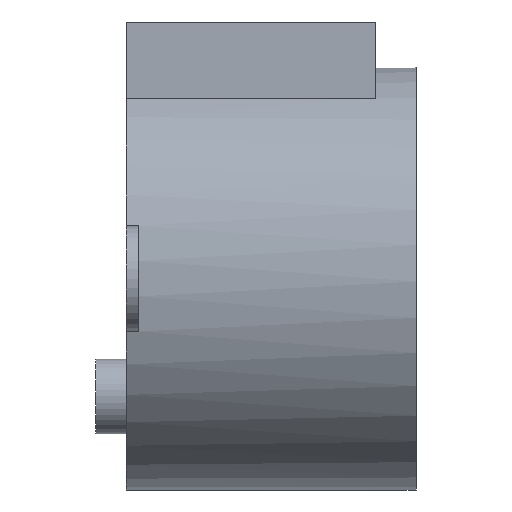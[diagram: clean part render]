
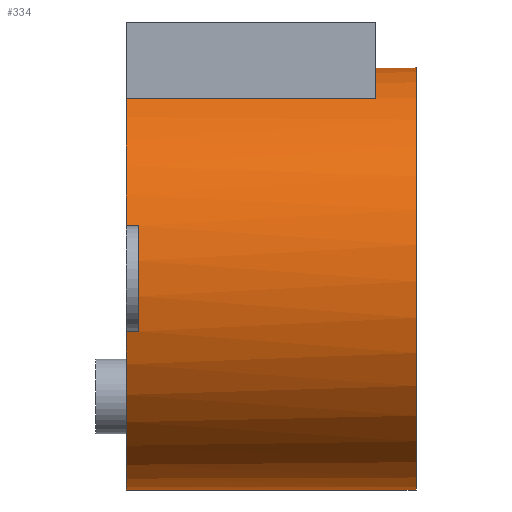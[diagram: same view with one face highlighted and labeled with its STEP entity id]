
A CAD part, front view. The second image highlights one B-rep face of the part: STEP entity #334.
In plain terms, the highlighted cylindrical face has radius 14 mm (diameter 28 mm), a full revolution.
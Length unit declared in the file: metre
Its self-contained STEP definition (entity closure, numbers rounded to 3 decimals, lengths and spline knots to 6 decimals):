
#16=LINE('',#504,#42);
#21=LINE('',#513,#47);
#25=LINE('',#532,#51);
#29=LINE('',#541,#55);
#33=LINE('',#560,#59);
#37=LINE('',#569,#63);
#42=VECTOR('',#404,1.);
#47=VECTOR('',#413,1.);
#51=VECTOR('',#431,1.);
#55=VECTOR('',#441,1.);
#59=VECTOR('',#459,1.);
#63=VECTOR('',#469,1.);
#69=CYLINDRICAL_SURFACE('',#383,0.014);
#143=ORIENTED_EDGE('',*,*,#168,.F.);
#144=ORIENTED_EDGE('',*,*,#161,.T.);
#145=ORIENTED_EDGE('',*,*,#163,.T.);
#146=ORIENTED_EDGE('',*,*,#197,.T.);
#147=ORIENTED_EDGE('',*,*,#194,.F.);
#148=ORIENTED_EDGE('',*,*,#186,.T.);
#149=ORIENTED_EDGE('',*,*,#189,.T.);
#150=ORIENTED_EDGE('',*,*,#196,.T.);
#151=ORIENTED_EDGE('',*,*,#181,.F.);
#152=ORIENTED_EDGE('',*,*,#170,.T.);
#153=ORIENTED_EDGE('',*,*,#176,.T.);
#154=ORIENTED_EDGE('',*,*,#195,.T.);
#155=ORIENTED_EDGE('',*,*,#198,.F.);
#161=EDGE_CURVE('',#202,#204,#232,.T.);
#163=EDGE_CURVE('',#204,#206,#16,.T.);
#168=EDGE_CURVE('',#202,#208,#21,.T.);
#170=EDGE_CURVE('',#210,#211,#234,.T.);
#176=EDGE_CURVE('',#211,#216,#25,.T.);
#181=EDGE_CURVE('',#210,#218,#29,.T.);
#186=EDGE_CURVE('',#221,#223,#240,.T.);
#189=EDGE_CURVE('',#223,#226,#33,.T.);
#194=EDGE_CURVE('',#221,#228,#37,.T.);
#195=EDGE_CURVE('',#216,#208,#243,.T.);
#196=EDGE_CURVE('',#226,#218,#244,.T.);
#197=EDGE_CURVE('',#206,#228,#245,.T.);
#198=EDGE_CURVE('',#229,#229,#246,.T.);
#202=VERTEX_POINT('',#494);
#204=VERTEX_POINT('',#498);
#206=VERTEX_POINT('',#503);
#208=VERTEX_POINT('',#512);
#210=VERTEX_POINT('',#518);
#211=VERTEX_POINT('',#519);
#216=VERTEX_POINT('',#531);
#218=VERTEX_POINT('',#540);
#221=VERTEX_POINT('',#547);
#223=VERTEX_POINT('',#551);
#226=VERTEX_POINT('',#559);
#228=VERTEX_POINT('',#568);
#229=VERTEX_POINT('',#576);
#232=CIRCLE('',#353,0.014);
#234=CIRCLE('',#359,0.014);
#240=CIRCLE('',#370,0.014);
#243=CIRCLE('',#378,0.014);
#244=CIRCLE('',#379,0.014);
#245=CIRCLE('',#380,0.014);
#246=CIRCLE('',#382,0.014);
#273=EDGE_LOOP('',(#143,#144,#145,#146,#147,#148,#149,#150,#151,#152,#153,
#154));
#274=EDGE_LOOP('',(#155));
#301=FACE_BOUND('',#273,.T.);
#302=FACE_BOUND('',#274,.T.);
#334=ADVANCED_FACE('',(#301,#302),#69,.T.);
#353=AXIS2_PLACEMENT_3D('',#499,#399,#400);
#359=AXIS2_PLACEMENT_3D('',#517,#418,#419);
#370=AXIS2_PLACEMENT_3D('',#552,#450,#451);
#378=AXIS2_PLACEMENT_3D('',#571,#472,#473);
#379=AXIS2_PLACEMENT_3D('',#572,#474,#475);
#380=AXIS2_PLACEMENT_3D('',#573,#476,#477);
#382=AXIS2_PLACEMENT_3D('',#575,#480,#481);
#383=AXIS2_PLACEMENT_3D('',#577,#482,#483);
#399=DIRECTION('',(1.,0.,0.));
#400=DIRECTION('',(0.,0.,-1.));
#404=DIRECTION('',(-1.,0.,0.));
#413=DIRECTION('',(-1.,0.,0.));
#418=DIRECTION('',(1.,0.,0.));
#419=DIRECTION('',(0.,0.,-1.));
#431=DIRECTION('',(-1.,0.,0.));
#441=DIRECTION('',(-1.,0.,0.));
#450=DIRECTION('',(1.,0.,0.));
#451=DIRECTION('',(0.,0.,-1.));
#459=DIRECTION('',(-1.,0.,0.));
#469=DIRECTION('',(-1.,0.,0.));
#472=DIRECTION('',(1.,0.,0.));
#473=DIRECTION('',(0.,0.,-1.));
#474=DIRECTION('',(1.,0.,0.));
#475=DIRECTION('',(0.,0.,-1.));
#476=DIRECTION('',(1.,0.,0.));
#477=DIRECTION('',(0.,0.,-1.));
#480=DIRECTION('',(1.,0.,0.));
#481=DIRECTION('',(0.,0.,-1.));
#482=DIRECTION('',(-1.,0.,0.));
#483=DIRECTION('',(0.,0.,1.));
#494=CARTESIAN_POINT('',(0.0165,0.007275,0.011961));
#498=CARTESIAN_POINT('',(0.0165,-0.007275,0.011961));
#499=CARTESIAN_POINT('',(0.0165,0.,0.));
#503=CARTESIAN_POINT('',(0.,-0.007275,0.011961));
#504=CARTESIAN_POINT('',(0.0165,-0.007275,0.011961));
#512=CARTESIAN_POINT('',(0.,0.007275,0.011961));
#513=CARTESIAN_POINT('',(0.0165,0.007275,0.011961));
#517=CARTESIAN_POINT('',(0.0008,0.,0.));
#518=CARTESIAN_POINT('',(0.0008,0.013555,-0.0035));
#519=CARTESIAN_POINT('',(0.0008,0.013555,0.0035));
#531=CARTESIAN_POINT('',(0.,0.013555,0.0035));
#532=CARTESIAN_POINT('',(0.0192,0.013555,0.0035));
#540=CARTESIAN_POINT('',(0.,0.013555,-0.0035));
#541=CARTESIAN_POINT('',(0.0192,0.013555,-0.0035));
#547=CARTESIAN_POINT('',(0.0008,-0.013555,0.0035));
#551=CARTESIAN_POINT('',(0.0008,-0.013555,-0.0035));
#552=CARTESIAN_POINT('',(0.0008,0.,0.));
#559=CARTESIAN_POINT('',(0.,-0.013555,-0.0035));
#560=CARTESIAN_POINT('',(0.0008,-0.013555,-0.0035));
#568=CARTESIAN_POINT('',(0.,-0.013555,0.0035));
#569=CARTESIAN_POINT('',(0.0008,-0.013555,0.0035));
#571=CARTESIAN_POINT('',(0.,0.,0.));
#572=CARTESIAN_POINT('',(0.,0.,0.));
#573=CARTESIAN_POINT('',(0.,0.,0.));
#575=CARTESIAN_POINT('',(0.0192,0.,0.));
#576=CARTESIAN_POINT('',(0.0192,0.,-0.014));
#577=CARTESIAN_POINT('',(0.0192,0.,0.));
